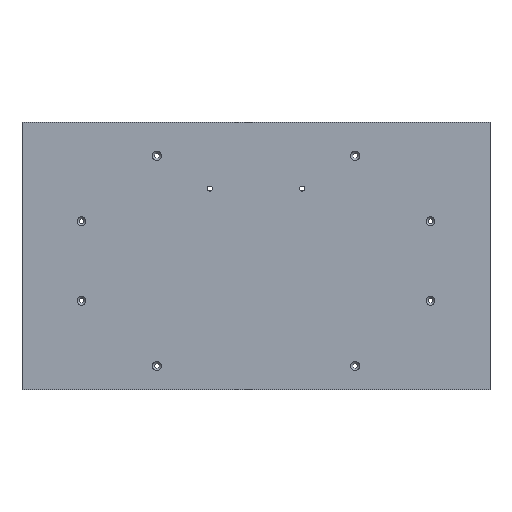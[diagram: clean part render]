
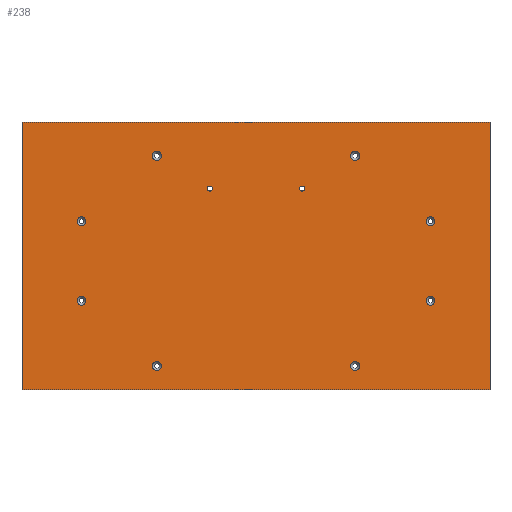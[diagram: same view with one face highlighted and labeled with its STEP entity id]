
A CAD part, top view. The second image highlights one B-rep face of the part: STEP entity #238.
In plain terms, the highlighted planar face has unit normal (0, 0, 1).
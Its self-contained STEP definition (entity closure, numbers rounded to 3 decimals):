
#1 = DIRECTION ( 'NONE',  ( 0., 0., -1. ) ) ;
#10 = LINE ( 'NONE', #305, #683 ) ;
#15 = DIRECTION ( 'NONE',  ( 1., 0., 0. ) ) ;
#16 = EDGE_LOOP ( 'NONE', ( #681 ) ) ;
#17 = CIRCLE ( 'NONE', #611, 4.5 ) ;
#20 = DIRECTION ( 'NONE',  ( -1., 0., 0. ) ) ;
#25 = CARTESIAN_POINT ( 'NONE',  ( 171.5, -45., 6. ) ) ;
#29 = EDGE_CURVE ( 'NONE', #657, #657, #62, .T. ) ;
#33 = VERTEX_POINT ( 'NONE', #465 ) ;
#42 = CIRCLE ( 'NONE', #175, 4.5 ) ;
#47 = CARTESIAN_POINT ( 'NONE',  ( -46.5, 68., 6. ) ) ;
#49 = CARTESIAN_POINT ( 'NONE',  ( -104.5, -111., 6. ) ) ;
#50 = FACE_BOUND ( 'NONE', #583, .T. ) ;
#55 = FACE_BOUND ( 'NONE', #660, .T. ) ;
#62 = CIRCLE ( 'NONE', #89, 4.5 ) ;
#67 = CARTESIAN_POINT ( 'NONE',  ( -176., 35., 6. ) ) ;
#69 = DIRECTION ( 'NONE',  ( 1., 0., 0. ) ) ;
#76 = EDGE_CURVE ( 'NONE', #78, #78, #676, .T. ) ;
#78 = VERTEX_POINT ( 'NONE', #25 ) ;
#79 = EDGE_CURVE ( 'NONE', #154, #154, #315, .T. ) ;
#80 = DIRECTION ( 'NONE',  ( 0., 0., -1. ) ) ;
#89 = AXIS2_PLACEMENT_3D ( 'NONE', #67, #80, #20 ) ;
#110 = VERTEX_POINT ( 'NONE', #351 ) ;
#115 = FACE_BOUND ( 'NONE', #385, .T. ) ;
#123 = EDGE_LOOP ( 'NONE', ( #493, #499, #692, #365 ) ) ;
#124 = CARTESIAN_POINT ( 'NONE',  ( 95.5, 101., 6. ) ) ;
#133 = VERTEX_POINT ( 'NONE', #559 ) ;
#141 = VECTOR ( 'NONE', #491, 1000. ) ;
#149 = DIRECTION ( 'NONE',  ( 0., 0., -1. ) ) ;
#154 = VERTEX_POINT ( 'NONE', #594 ) ;
#156 = EDGE_LOOP ( 'NONE', ( #369 ) ) ;
#157 = DIRECTION ( 'NONE',  ( -1., 0., 0. ) ) ;
#158 = DIRECTION ( 'NONE',  ( -1., 0., 0. ) ) ;
#160 = EDGE_CURVE ( 'NONE', #233, #329, #256, .T. ) ;
#166 = AXIS2_PLACEMENT_3D ( 'NONE', #303, #586, #522 ) ;
#171 = FACE_BOUND ( 'NONE', #284, .T. ) ;
#175 = AXIS2_PLACEMENT_3D ( 'NONE', #362, #589, #252 ) ;
#178 = ORIENTED_EDGE ( 'NONE', *, *, #612, .T. ) ;
#192 = LINE ( 'NONE', #627, #285 ) ;
#225 = AXIS2_PLACEMENT_3D ( 'NONE', #297, #348, #69 ) ;
#229 = ORIENTED_EDGE ( 'NONE', *, *, #497, .T. ) ;
#233 = VERTEX_POINT ( 'NONE', #316 ) ;
#237 = ORIENTED_EDGE ( 'NONE', *, *, #349, .F. ) ;
#238 = ADVANCED_FACE ( 'NONE', ( #539, #483, #279, #55, #115, #171, #449, #673, #290, #50, #397 ), #511, .F. ) ;
#245 = CARTESIAN_POINT ( 'NONE',  ( 100., -111., 6. ) ) ;
#252 = DIRECTION ( 'NONE',  ( -1., 0., 0. ) ) ;
#254 = DIRECTION ( 'NONE',  ( 0., 0., -1. ) ) ;
#256 = LINE ( 'NONE', #371, #141 ) ;
#266 = EDGE_LOOP ( 'NONE', ( #408 ) ) ;
#279 = FACE_BOUND ( 'NONE', #16, .T. ) ;
#282 = CARTESIAN_POINT ( 'NONE',  ( -104.5, 101., 6. ) ) ;
#284 = EDGE_LOOP ( 'NONE', ( #708 ) ) ;
#285 = VECTOR ( 'NONE', #15, 1000. ) ;
#287 = AXIS2_PLACEMENT_3D ( 'NONE', #245, #651, #158 ) ;
#290 = FACE_BOUND ( 'NONE', #424, .T. ) ;
#292 = LINE ( 'NONE', #616, #366 ) ;
#295 = CARTESIAN_POINT ( 'NONE',  ( -180.5, -45., 6. ) ) ;
#297 = CARTESIAN_POINT ( 'NONE',  ( 46.5, 68., 6. ) ) ;
#300 = VERTEX_POINT ( 'NONE', #304 ) ;
#303 = CARTESIAN_POINT ( 'NONE',  ( 176., -45., 6. ) ) ;
#304 = CARTESIAN_POINT ( 'NONE',  ( 171.5, 35., 6. ) ) ;
#305 = CARTESIAN_POINT ( 'NONE',  ( 236., -135., 6. ) ) ;
#310 = ORIENTED_EDGE ( 'NONE', *, *, #590, .T. ) ;
#315 = CIRCLE ( 'NONE', #287, 4.5 ) ;
#316 = CARTESIAN_POINT ( 'NONE',  ( 236., 135., 6. ) ) ;
#320 = DIRECTION ( 'NONE',  ( 0., 0., -1. ) ) ;
#327 = EDGE_CURVE ( 'NONE', #329, #338, #292, .T. ) ;
#329 = VERTEX_POINT ( 'NONE', #508 ) ;
#333 = DIRECTION ( 'NONE',  ( 1., 0., 0. ) ) ;
#337 = DIRECTION ( 'NONE',  ( -1., 0., 0. ) ) ;
#338 = VERTEX_POINT ( 'NONE', #557 ) ;
#347 = VERTEX_POINT ( 'NONE', #124 ) ;
#348 = DIRECTION ( 'NONE',  ( 0., 0., 1. ) ) ;
#349 = EDGE_CURVE ( 'NONE', #110, #110, #615, .T. ) ;
#351 = CARTESIAN_POINT ( 'NONE',  ( -44., 68., 6. ) ) ;
#362 = CARTESIAN_POINT ( 'NONE',  ( 100., 101., 6. ) ) ;
#365 = ORIENTED_EDGE ( 'NONE', *, *, #381, .T. ) ;
#366 = VECTOR ( 'NONE', #462, 1000. ) ;
#369 = ORIENTED_EDGE ( 'NONE', *, *, #469, .F. ) ;
#371 = CARTESIAN_POINT ( 'NONE',  ( -236., 135., 6. ) ) ;
#375 = AXIS2_PLACEMENT_3D ( 'NONE', #478, #149, #485 ) ;
#378 = DIRECTION ( 'NONE',  ( 0., 0., -1. ) ) ;
#381 = EDGE_CURVE ( 'NONE', #338, #33, #192, .T. ) ;
#385 = EDGE_LOOP ( 'NONE', ( #310 ) ) ;
#389 = EDGE_LOOP ( 'NONE', ( #237 ) ) ;
#397 = FACE_OUTER_BOUND ( 'NONE', #123, .T. ) ;
#408 = ORIENTED_EDGE ( 'NONE', *, *, #76, .T. ) ;
#424 = EDGE_LOOP ( 'NONE', ( #229 ) ) ;
#449 = FACE_BOUND ( 'NONE', #266, .T. ) ;
#451 = AXIS2_PLACEMENT_3D ( 'NONE', #536, #378, #543 ) ;
#457 = ORIENTED_EDGE ( 'NONE', *, *, #631, .T. ) ;
#460 = CIRCLE ( 'NONE', #375, 4.5 ) ;
#462 = DIRECTION ( 'NONE',  ( 0., -1., 0. ) ) ;
#465 = CARTESIAN_POINT ( 'NONE',  ( 236., -135., 6. ) ) ;
#469 = EDGE_CURVE ( 'NONE', #133, #133, #644, .T. ) ;
#473 = EDGE_CURVE ( 'NONE', #33, #233, #10, .T. ) ;
#478 = CARTESIAN_POINT ( 'NONE',  ( 176., 35., 6. ) ) ;
#483 = FACE_BOUND ( 'NONE', #156, .T. ) ;
#485 = DIRECTION ( 'NONE',  ( -1., 0., 0. ) ) ;
#491 = DIRECTION ( 'NONE',  ( -1., 0., 0. ) ) ;
#493 = ORIENTED_EDGE ( 'NONE', *, *, #473, .T. ) ;
#497 = EDGE_CURVE ( 'NONE', #347, #347, #42, .T. ) ;
#499 = ORIENTED_EDGE ( 'NONE', *, *, #160, .T. ) ;
#504 = AXIS2_PLACEMENT_3D ( 'NONE', #618, #1, #337 ) ;
#508 = CARTESIAN_POINT ( 'NONE',  ( -236., 135., 6. ) ) ;
#511 = PLANE ( 'NONE',  #504 ) ;
#520 = VERTEX_POINT ( 'NONE', #295 ) ;
#522 = DIRECTION ( 'NONE',  ( -1., 0., 0. ) ) ;
#524 = DIRECTION ( 'NONE',  ( 0., 1., 0. ) ) ;
#536 = CARTESIAN_POINT ( 'NONE',  ( -100., 101., 6. ) ) ;
#539 = FACE_BOUND ( 'NONE', #389, .T. ) ;
#543 = DIRECTION ( 'NONE',  ( -1., 0., 0. ) ) ;
#551 = CIRCLE ( 'NONE', #575, 4.5 ) ;
#557 = CARTESIAN_POINT ( 'NONE',  ( -236., -135., 6. ) ) ;
#559 = CARTESIAN_POINT ( 'NONE',  ( 49., 68., 6. ) ) ;
#575 = AXIS2_PLACEMENT_3D ( 'NONE', #706, #254, #710 ) ;
#581 = VERTEX_POINT ( 'NONE', #49 ) ;
#583 = EDGE_LOOP ( 'NONE', ( #457 ) ) ;
#586 = DIRECTION ( 'NONE',  ( 0., 0., -1. ) ) ;
#589 = DIRECTION ( 'NONE',  ( 0., 0., -1. ) ) ;
#590 = EDGE_CURVE ( 'NONE', #581, #581, #551, .T. ) ;
#592 = CARTESIAN_POINT ( 'NONE',  ( -180.5, 35., 6. ) ) ;
#594 = CARTESIAN_POINT ( 'NONE',  ( 95.5, -111., 6. ) ) ;
#611 = AXIS2_PLACEMENT_3D ( 'NONE', #662, #320, #157 ) ;
#612 = EDGE_CURVE ( 'NONE', #300, #300, #460, .T. ) ;
#615 = CIRCLE ( 'NONE', #703, 2.5 ) ;
#616 = CARTESIAN_POINT ( 'NONE',  ( -236., -135., 6. ) ) ;
#618 = CARTESIAN_POINT ( 'NONE',  ( 0., 0., 6. ) ) ;
#619 = EDGE_LOOP ( 'NONE', ( #178 ) ) ;
#627 = CARTESIAN_POINT ( 'NONE',  ( -236., -135., 6. ) ) ;
#631 = EDGE_CURVE ( 'NONE', #723, #723, #714, .T. ) ;
#644 = CIRCLE ( 'NONE', #225, 2.5 ) ;
#651 = DIRECTION ( 'NONE',  ( 0., 0., -1. ) ) ;
#657 = VERTEX_POINT ( 'NONE', #592 ) ;
#660 = EDGE_LOOP ( 'NONE', ( #696 ) ) ;
#662 = CARTESIAN_POINT ( 'NONE',  ( -176., -45., 6. ) ) ;
#673 = FACE_BOUND ( 'NONE', #619, .T. ) ;
#676 = CIRCLE ( 'NONE', #166, 4.5 ) ;
#678 = DIRECTION ( 'NONE',  ( 0., 0., 1. ) ) ;
#681 = ORIENTED_EDGE ( 'NONE', *, *, #29, .T. ) ;
#683 = VECTOR ( 'NONE', #524, 1000. ) ;
#692 = ORIENTED_EDGE ( 'NONE', *, *, #327, .T. ) ;
#696 = ORIENTED_EDGE ( 'NONE', *, *, #697, .T. ) ;
#697 = EDGE_CURVE ( 'NONE', #520, #520, #17, .T. ) ;
#703 = AXIS2_PLACEMENT_3D ( 'NONE', #47, #678, #333 ) ;
#706 = CARTESIAN_POINT ( 'NONE',  ( -100., -111., 6. ) ) ;
#708 = ORIENTED_EDGE ( 'NONE', *, *, #79, .T. ) ;
#710 = DIRECTION ( 'NONE',  ( -1., 0., 0. ) ) ;
#714 = CIRCLE ( 'NONE', #451, 4.5 ) ;
#723 = VERTEX_POINT ( 'NONE', #282 ) ;
